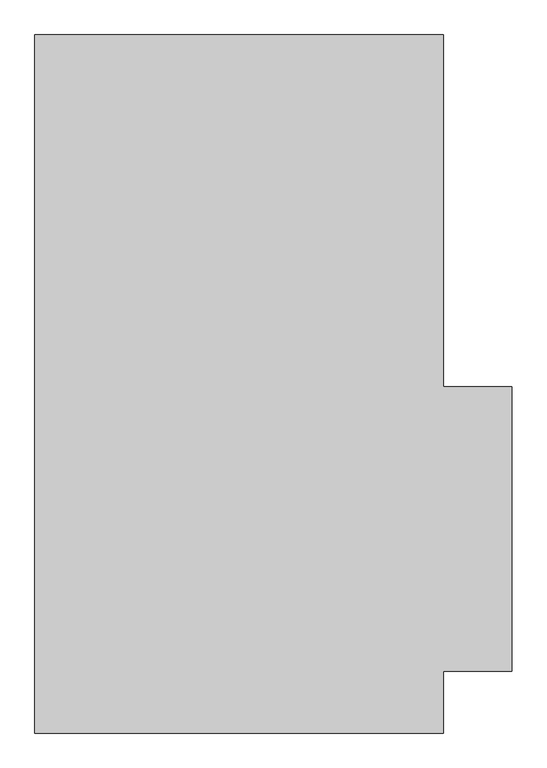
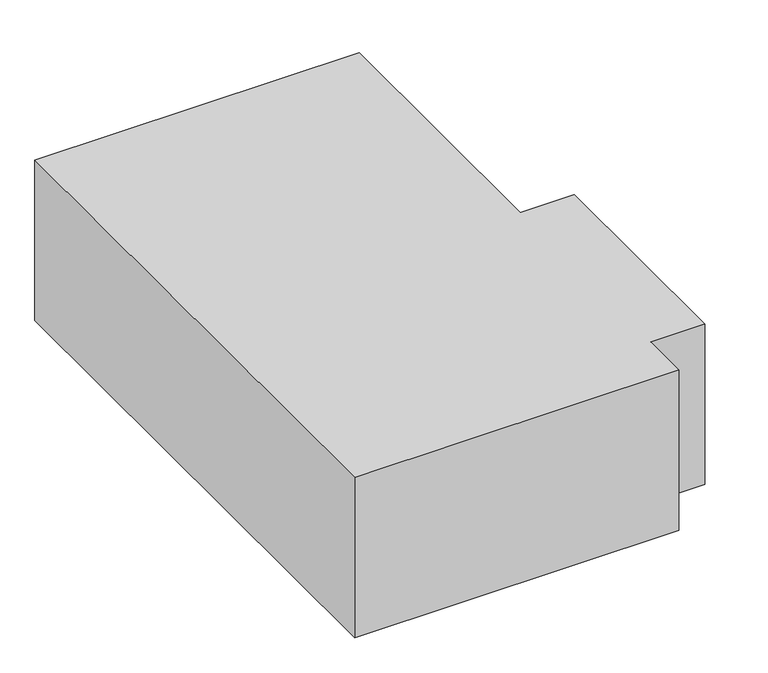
"""IFC4 building model written with IfcOpenShell, lengths in millimetres: proxy geometry."""

from ifc_helpers import new_model, si_unit, origin, origin_with_axes, place, context, project, spatial, polyline, outline, extrude, source, transform, mapped, element, save


def generic_models_a54955a3(model_context):
    return source(origin(), model_context, "Body", "SweptSolid", [
        extrude(outline(polyline([(-112874.8280797, -38007.1966115), (-112874.8280797, -41335.0027343), (-113674.8280797, -41335.0027343), (-113674.8280797, -42055.0027343), (-118453.5057462, -42055.0027343), (-118453.5057462, -33898.2180652), (-113674.8280797, -33898.2180652), (-113674.8280797, -38007.1966115), (-112874.8280797, -38007.1966115)])), origin_with_axes(), (0.0, 0.0, 1.0), 2500.0),
    ])


if __name__ == "__main__":
    model = new_model("IFC4")
    model_context = context("Model", 3, world=origin())
    ifc_project = project(units=[si_unit("LENGTHUNIT", "METRE", prefix="MILLI")], contexts=[model_context])
    site = spatial("IfcSite", under=ifc_project)
    building = spatial("IfcBuilding", under=site)
    placement = place(None, origin())
    generic_models_shape = generic_models_a54955a3(model_context)
    element("IfcBuildingElementProxy", 1, Name="Generic Models", at=placement, inside=building, context=model_context, shape_type="MappedRepresentation", body=[
        mapped(generic_models_shape, transform((0.0, 0.0, 0.0), x_axis=(1.0, 0.0, 0.0), y_axis=(0.0, 1.0, 0.0), z_axis=(0.0, 0.0, 1.0))),
    ])
    save(model, "model.ifc")
